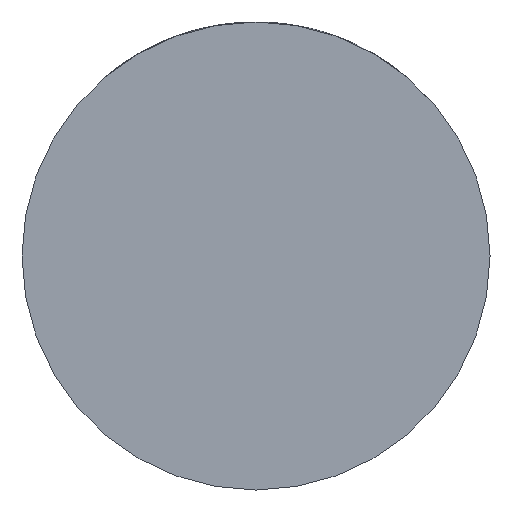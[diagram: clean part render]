
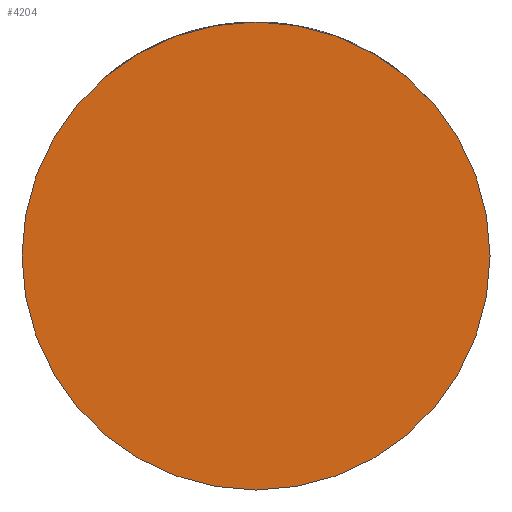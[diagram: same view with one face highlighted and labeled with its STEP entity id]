
A CAD part, front view. The second image highlights one B-rep face of the part: STEP entity #4204.
In plain terms, the highlighted planar face has unit normal (0, -1, 0).
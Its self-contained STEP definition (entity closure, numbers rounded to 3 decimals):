
#74 = CARTESIAN_POINT ( 'NONE',  ( 0., -33., 0. ) ) ;
#349 = EDGE_CURVE ( 'NONE', #458, #1168, #4379, .T. ) ;
#458 = VERTEX_POINT ( 'NONE', #3541 ) ;
#704 = CARTESIAN_POINT ( 'NONE',  ( -29.5, -33., 0. ) ) ;
#982 = DIRECTION ( 'NONE',  ( 0., -1., 0. ) ) ;
#1083 = CIRCLE ( 'NONE', #1317, 29.5 ) ;
#1113 = DIRECTION ( 'NONE',  ( 0., -1., 0. ) ) ;
#1168 = VERTEX_POINT ( 'NONE', #704 ) ;
#1317 = AXIS2_PLACEMENT_3D ( 'NONE', #74, #2222, #2574 ) ;
#1754 = DIRECTION ( 'NONE',  ( 1., 0., 0. ) ) ;
#1797 = ORIENTED_EDGE ( 'NONE', *, *, #349, .T. ) ;
#2036 = PLANE ( 'NONE',  #4156 ) ;
#2222 = DIRECTION ( 'NONE',  ( 0., -1., 0. ) ) ;
#2226 = ORIENTED_EDGE ( 'NONE', *, *, #2808, .T. ) ;
#2235 = AXIS2_PLACEMENT_3D ( 'NONE', #4270, #1113, #1754 ) ;
#2535 = EDGE_LOOP ( 'NONE', ( #2226, #1797 ) ) ;
#2574 = DIRECTION ( 'NONE',  ( 1., 0., 0. ) ) ;
#2715 = FACE_OUTER_BOUND ( 'NONE', #2535, .T. ) ;
#2782 = CARTESIAN_POINT ( 'NONE',  ( 0., -33., 0. ) ) ;
#2808 = EDGE_CURVE ( 'NONE', #1168, #458, #1083, .T. ) ;
#3541 = CARTESIAN_POINT ( 'NONE',  ( 29.5, -33., 0. ) ) ;
#4118 = DIRECTION ( 'NONE',  ( 1., 0., 0. ) ) ;
#4156 = AXIS2_PLACEMENT_3D ( 'NONE', #2782, #982, #4118 ) ;
#4204 = ADVANCED_FACE ( 'NONE', ( #2715 ), #2036, .T. ) ;
#4270 = CARTESIAN_POINT ( 'NONE',  ( 0., -33., 0. ) ) ;
#4379 = CIRCLE ( 'NONE', #2235, 29.5 ) ;
